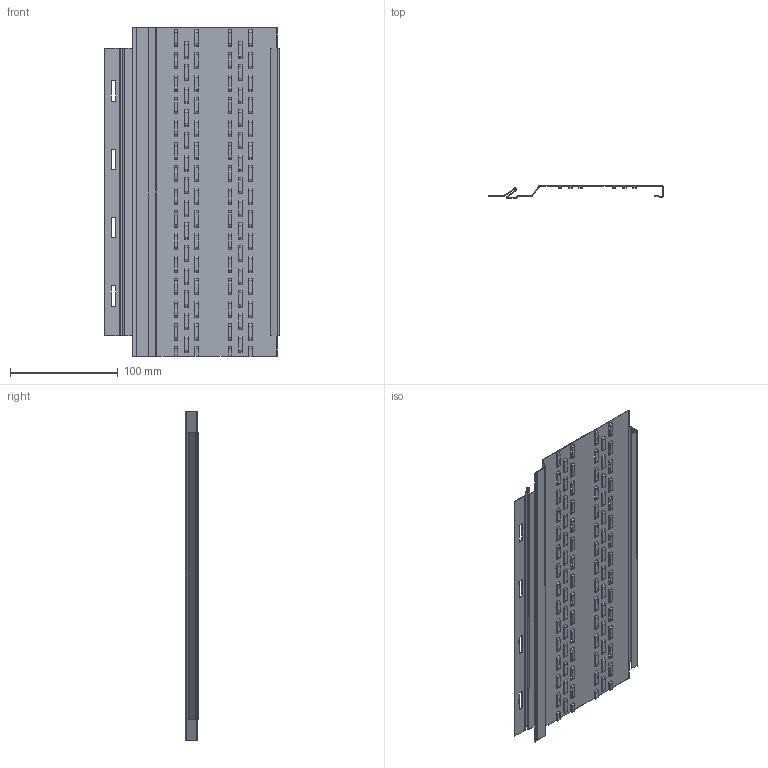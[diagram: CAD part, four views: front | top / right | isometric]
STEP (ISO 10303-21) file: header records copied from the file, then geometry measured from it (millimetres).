
FILE_DESCRIPTION (( 'STEP AP203' ), '1' );
FILE_NAME ('NORWOOD VENTILATED.STEP', '2018-07-23T18:24:36', ( 'Michael Moliner' ), ( '' ), 'SwSTEP 2.0', 'SolidWorks 2018', '' );
FILE_SCHEMA (( 'CONFIG_CONTROL_DESIGN' ));
Length unit declared in the file: millimetre
Products named in the file (2): NORWOOD VENTILATED
Bounding box: 161.72 x 12.32 x 304.8 mm (x, y, z)
Volume: 30878.1 mm3; surface area: 124733.1 mm2
Topology: 1 solids, 1 shells, 1118 faces, 3508 edges, 2224 vertices
Faces by surface type: plane 754, cylinder 364
Entity records: 39543 total; most frequent: ORIENTED_EDGE 7016, CARTESIAN_POINT 6852, DIRECTION 6828, EDGE_CURVE 3508, VECTOR 2428, LINE 2428, VERTEX_POINT 2224, AXIS2_PLACEMENT_3D 2200
